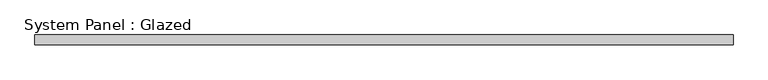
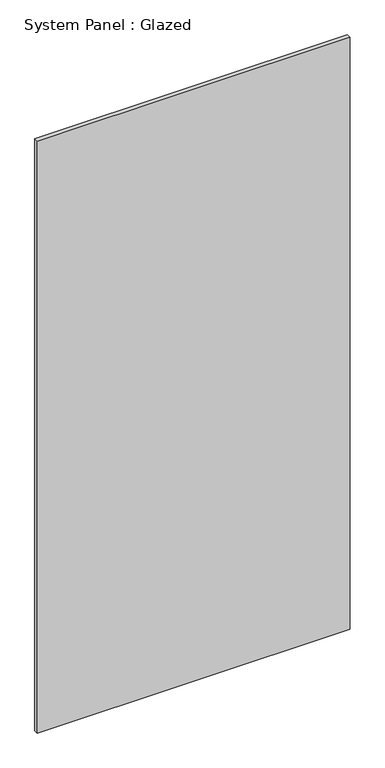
"""IFC4 building model written with IfcOpenShell, lengths in millimetres: plate geometry, System Panel : Glazed."""

from ifc_helpers import new_model, si_unit, origin, origin_with_axes, place, context, project, spatial, polyline, outline, extrude, source, transform, mapped, element, save


def system_panel_glazed_dcdf1185(model_context):
    return source(origin(), model_context, "Body", "SweptSolid", [
        extrude(outline(polyline([(898.525, 19.05), (-898.525, 19.05), (-898.525, 44.45), (898.525, 44.45), (898.525, 19.05)])), origin_with_axes(), (0.0, 0.0, 1.0), 3594.1),
    ])


if __name__ == "__main__":
    model = new_model("IFC4")
    model_context = context("Model", 3, world=origin())
    ifc_project = project(units=[si_unit("LENGTHUNIT", "METRE", prefix="MILLI")], contexts=[model_context])
    site = spatial("IfcSite", under=ifc_project)
    building = spatial("IfcBuilding", under=site)
    placement = place(None, origin())
    system_panel_glazed_shape = system_panel_glazed_dcdf1185(model_context)
    element("IfcPlate", 1, ObjectType="System Panel : Glazed", at=placement, inside=building, context=model_context, shape_type="MappedRepresentation", body=[
        mapped(system_panel_glazed_shape, transform((0.0, 0.0, 0.0), x_axis=(1.0, 0.0, 0.0), y_axis=(0.0, 1.0, 0.0), z_axis=(0.0, 0.0, 1.0))),
    ])
    save(model, "model.ifc")
